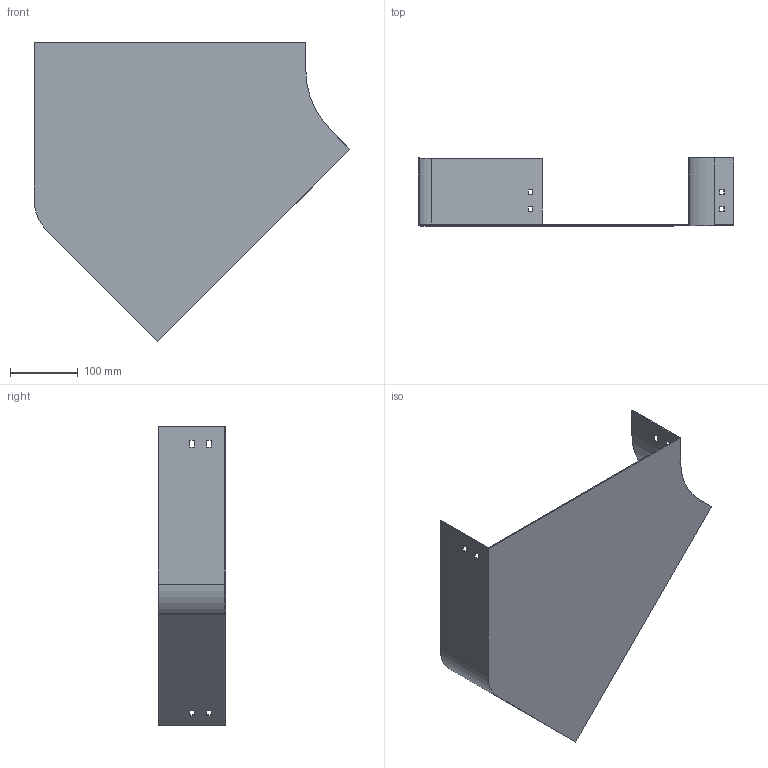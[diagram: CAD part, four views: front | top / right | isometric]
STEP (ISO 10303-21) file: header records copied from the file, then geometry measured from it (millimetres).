
FILE_DESCRIPTION (( 'STEP AP214' ), '1' );
FILE_NAME ('P4_401.step', '2025-07-16T09:19:31', ( '' ), ( '' ), 'SwSTEP 2.0', 'SolidWorks 2023', '' );
FILE_SCHEMA (( 'AUTOMOTIVE_DESIGN' ));
Length unit declared in the file: millimetre
Products named in the file (1): P4_401
Bounding box: 464.9 x 100 x 439.52 mm (x, y, z)
Volume: 311089.5 mm3; surface area: 418020.6 mm2
Topology: 1 solids, 1 shells, 50 faces, 144 edges, 96 vertices
Faces by surface type: plane 46, cylinder 4
Entity records: 1671 total; most frequent: CARTESIAN_POINT 291, ORIENTED_EDGE 288, DIRECTION 254, EDGE_CURVE 144, LINE 136, VECTOR 136, VERTEX_POINT 96, EDGE_LOOP 66
